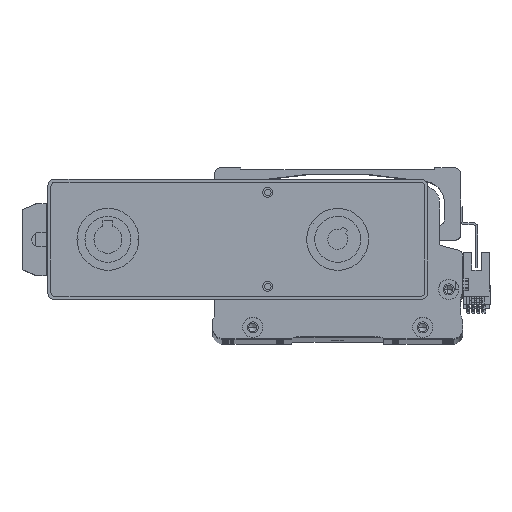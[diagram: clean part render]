
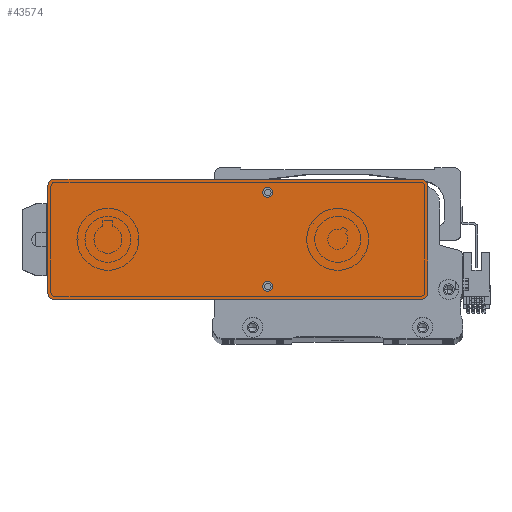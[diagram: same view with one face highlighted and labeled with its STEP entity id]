
A CAD part, top view. The second image highlights one B-rep face of the part: STEP entity #43574.
In plain terms, the highlighted planar face has unit normal (0, 0, 1) as drawn and (0, 0, -1) by its records, which use the part's own axes.
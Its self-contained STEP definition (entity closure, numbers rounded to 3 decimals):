
#254 = CARTESIAN_POINT ( 'NONE',  ( 92., 27., 0. ) ) ;
#516 = DIRECTION ( 'NONE',  ( 0., 0., -1. ) ) ;
#1322 = ORIENTED_EDGE ( 'NONE', *, *, #76969, .F. ) ;
#1760 = DIRECTION ( 'NONE',  ( 0., 1., 0. ) ) ;
#2031 = DIRECTION ( 'NONE',  ( -1., 0., 0. ) ) ;
#5176 = DIRECTION ( 'NONE',  ( 1., 0., 0. ) ) ;
#5255 = EDGE_CURVE ( 'NONE', #73576, #16464, #10001, .T. ) ;
#6838 = DIRECTION ( 'NONE',  ( 1., 0., 0. ) ) ;
#6997 = ORIENTED_EDGE ( 'NONE', *, *, #77046, .F. ) ;
#7012 = CIRCLE ( 'NONE', #50513, 2.5 ) ;
#8554 = ORIENTED_EDGE ( 'NONE', *, *, #78385, .T. ) ;
#8620 = CARTESIAN_POINT ( 'NONE',  ( 95., 30., 0. ) ) ;
#10001 = CIRCLE ( 'NONE', #60294, 2.5 ) ;
#10435 = CARTESIAN_POINT ( 'NONE',  ( -17.5, 23.5, 0. ) ) ;
#10642 = LINE ( 'NONE', #23590, #77502 ) ;
#10850 = EDGE_LOOP ( 'NONE', ( #29627, #18606 ) ) ;
#10964 = VERTEX_POINT ( 'NONE', #40010 ) ;
#12694 = CARTESIAN_POINT ( 'NONE',  ( -92., -27., 0. ) ) ;
#13215 = CIRCLE ( 'NONE', #33218, 2.5 ) ;
#16045 = ORIENTED_EDGE ( 'NONE', *, *, #20852, .T. ) ;
#16416 = ORIENTED_EDGE ( 'NONE', *, *, #69738, .F. ) ;
#16464 = VERTEX_POINT ( 'NONE', #10435 ) ;
#17136 = CARTESIAN_POINT ( 'NONE',  ( -15., -23.5, 0. ) ) ;
#17481 = ORIENTED_EDGE ( 'NONE', *, *, #83148, .T. ) ;
#17692 = AXIS2_PLACEMENT_3D ( 'NONE', #12694, #57954, #19192 ) ;
#17876 = CARTESIAN_POINT ( 'NONE',  ( -95., -27., 0. ) ) ;
#17985 = VERTEX_POINT ( 'NONE', #54293 ) ;
#18387 = CIRCLE ( 'NONE', #36787, 3. ) ;
#18606 = ORIENTED_EDGE ( 'NONE', *, *, #74272, .F. ) ;
#19192 = DIRECTION ( 'NONE',  ( 1., 0., 0. ) ) ;
#19407 = CIRCLE ( 'NONE', #25232, 3. ) ;
#20615 = EDGE_CURVE ( 'NONE', #17985, #22487, #43772, .T. ) ;
#20781 = VERTEX_POINT ( 'NONE', #51246 ) ;
#20852 = EDGE_CURVE ( 'NONE', #17985, #10964, #19407, .T. ) ;
#21594 = CIRCLE ( 'NONE', #65929, 3. ) ;
#22487 = VERTEX_POINT ( 'NONE', #32585 ) ;
#23590 = CARTESIAN_POINT ( 'NONE',  ( -95., -30., 0. ) ) ;
#23661 = DIRECTION ( 'NONE',  ( -1., 0., 0. ) ) ;
#24447 = CARTESIAN_POINT ( 'NONE',  ( -15., 23.5, 0. ) ) ;
#24456 = CARTESIAN_POINT ( 'NONE',  ( -92., 27., 0. ) ) ;
#25232 = AXIS2_PLACEMENT_3D ( 'NONE', #254, #45668, #6838 ) ;
#26275 = FACE_OUTER_BOUND ( 'NONE', #68334, .T. ) ;
#27278 = CARTESIAN_POINT ( 'NONE',  ( 95., -30., 0. ) ) ;
#27934 = CIRCLE ( 'NONE', #36668, 2.5 ) ;
#28291 = VERTEX_POINT ( 'NONE', #75917 ) ;
#29627 = ORIENTED_EDGE ( 'NONE', *, *, #62861, .F. ) ;
#29849 = CARTESIAN_POINT ( 'NONE',  ( 92., -27., 0. ) ) ;
#30918 = DIRECTION ( 'NONE',  ( -1., 0., 0. ) ) ;
#30934 = DIRECTION ( 'NONE',  ( 1., 0., 0. ) ) ;
#32585 = CARTESIAN_POINT ( 'NONE',  ( -92., 30., 0. ) ) ;
#33218 = AXIS2_PLACEMENT_3D ( 'NONE', #79638, #40912, #2031 ) ;
#33756 = DIRECTION ( 'NONE',  ( 1., 0., 0. ) ) ;
#34906 = CARTESIAN_POINT ( 'NONE',  ( 92., -30., 0. ) ) ;
#36355 = DIRECTION ( 'NONE',  ( 1., 0., 0. ) ) ;
#36668 = AXIS2_PLACEMENT_3D ( 'NONE', #24447, #69664, #30918 ) ;
#36787 = AXIS2_PLACEMENT_3D ( 'NONE', #24456, #69678, #30934 ) ;
#37572 = VECTOR ( 'NONE', #1760, 1000. ) ;
#39379 = CARTESIAN_POINT ( 'NONE',  ( -15., 23.5, 0. ) ) ;
#39640 = LINE ( 'NONE', #47151, #37572 ) ;
#40010 = CARTESIAN_POINT ( 'NONE',  ( 95., 27., 0. ) ) ;
#40912 = DIRECTION ( 'NONE',  ( 0., 0., -1. ) ) ;
#40919 = DIRECTION ( 'NONE',  ( -1., 0., 0. ) ) ;
#41446 = EDGE_CURVE ( 'NONE', #61002, #74047, #42955, .T. ) ;
#41560 = AXIS2_PLACEMENT_3D ( 'NONE', #76234, #69705, #5176 ) ;
#42955 = CIRCLE ( 'NONE', #17692, 3. ) ;
#43111 = DIRECTION ( 'NONE',  ( 0., -1., 0. ) ) ;
#43574 = ADVANCED_FACE ( 'NONE', ( #77887, #26275, #75846 ), #44015, .F. ) ;
#43772 = LINE ( 'NONE', #8620, #76143 ) ;
#44015 = PLANE ( 'NONE',  #41560 ) ;
#45668 = DIRECTION ( 'NONE',  ( 0., 0., -1. ) ) ;
#45919 = DIRECTION ( 'NONE',  ( -1., 0., 0. ) ) ;
#46668 = CARTESIAN_POINT ( 'NONE',  ( -92., -30., 0. ) ) ;
#47151 = CARTESIAN_POINT ( 'NONE',  ( 95., -30., 0. ) ) ;
#50513 = AXIS2_PLACEMENT_3D ( 'NONE', #17136, #62390, #23661 ) ;
#50764 = CARTESIAN_POINT ( 'NONE',  ( -12.5, 23.5, 0. ) ) ;
#51246 = CARTESIAN_POINT ( 'NONE',  ( -17.5, -23.5, 0. ) ) ;
#51293 = EDGE_LOOP ( 'NONE', ( #6997, #55646 ) ) ;
#52573 = LINE ( 'NONE', #27278, #67759 ) ;
#53314 = VERTEX_POINT ( 'NONE', #34906 ) ;
#54293 = CARTESIAN_POINT ( 'NONE',  ( 92., 30., 0. ) ) ;
#55064 = VERTEX_POINT ( 'NONE', #73798 ) ;
#55646 = ORIENTED_EDGE ( 'NONE', *, *, #5255, .F. ) ;
#57124 = ORIENTED_EDGE ( 'NONE', *, *, #41446, .T. ) ;
#57954 = DIRECTION ( 'NONE',  ( 0., 0., -1. ) ) ;
#60294 = AXIS2_PLACEMENT_3D ( 'NONE', #39379, #516, #45919 ) ;
#61002 = VERTEX_POINT ( 'NONE', #46668 ) ;
#62390 = DIRECTION ( 'NONE',  ( 0., 0., -1. ) ) ;
#62861 = EDGE_CURVE ( 'NONE', #20781, #55064, #7012, .T. ) ;
#65929 = AXIS2_PLACEMENT_3D ( 'NONE', #29849, #75106, #36355 ) ;
#66105 = ORIENTED_EDGE ( 'NONE', *, *, #20615, .F. ) ;
#66513 = VERTEX_POINT ( 'NONE', #73688 ) ;
#67759 = VECTOR ( 'NONE', #33756, 1000. ) ;
#68334 = EDGE_LOOP ( 'NONE', ( #16416, #17481, #70382, #57124, #1322, #8554, #66105, #16045 ) ) ;
#69664 = DIRECTION ( 'NONE',  ( 0., 0., -1. ) ) ;
#69678 = DIRECTION ( 'NONE',  ( 0., 0., -1. ) ) ;
#69705 = DIRECTION ( 'NONE',  ( 0., 0., 1. ) ) ;
#69738 = EDGE_CURVE ( 'NONE', #28291, #10964, #39640, .T. ) ;
#70382 = ORIENTED_EDGE ( 'NONE', *, *, #74711, .F. ) ;
#73576 = VERTEX_POINT ( 'NONE', #50764 ) ;
#73688 = CARTESIAN_POINT ( 'NONE',  ( -95., 27., 0. ) ) ;
#73798 = CARTESIAN_POINT ( 'NONE',  ( -12.5, -23.5, 0. ) ) ;
#74047 = VERTEX_POINT ( 'NONE', #17876 ) ;
#74272 = EDGE_CURVE ( 'NONE', #55064, #20781, #13215, .T. ) ;
#74711 = EDGE_CURVE ( 'NONE', #61002, #53314, #52573, .T. ) ;
#75106 = DIRECTION ( 'NONE',  ( 0., 0., -1. ) ) ;
#75846 = FACE_BOUND ( 'NONE', #10850, .T. ) ;
#75917 = CARTESIAN_POINT ( 'NONE',  ( 95., -27., 0. ) ) ;
#76143 = VECTOR ( 'NONE', #40919, 1000. ) ;
#76234 = CARTESIAN_POINT ( 'NONE',  ( 0., 0., 0. ) ) ;
#76969 = EDGE_CURVE ( 'NONE', #66513, #74047, #10642, .T. ) ;
#77046 = EDGE_CURVE ( 'NONE', #16464, #73576, #27934, .T. ) ;
#77502 = VECTOR ( 'NONE', #43111, 1000. ) ;
#77887 = FACE_BOUND ( 'NONE', #51293, .T. ) ;
#78385 = EDGE_CURVE ( 'NONE', #66513, #22487, #18387, .T. ) ;
#79638 = CARTESIAN_POINT ( 'NONE',  ( -15., -23.5, 0. ) ) ;
#83148 = EDGE_CURVE ( 'NONE', #28291, #53314, #21594, .T. ) ;
